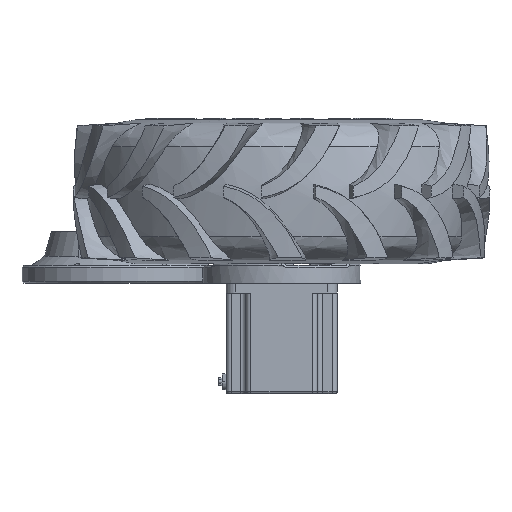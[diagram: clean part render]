
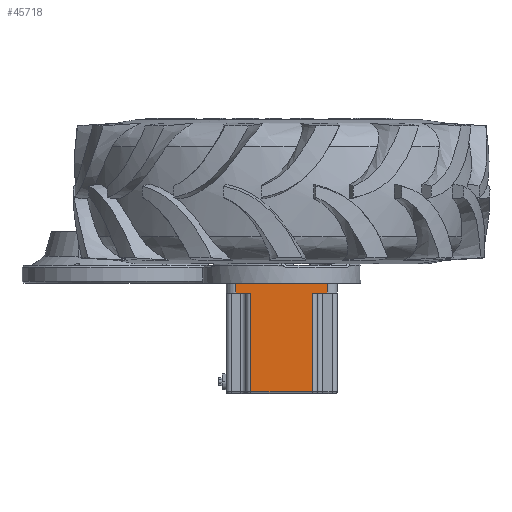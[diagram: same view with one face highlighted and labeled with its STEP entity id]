
A CAD part, left-side view. The second image highlights one B-rep face of the part: STEP entity #45718.
In plain terms, the highlighted planar face has unit normal (-1, 0, 0).
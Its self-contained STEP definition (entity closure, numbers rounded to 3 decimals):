
#4728=PLANE('',#49649);
#6776=FACE_OUTER_BOUND('',#9666,.T.);
#9666=EDGE_LOOP('',(#37604,#37605,#37606,#37607,#37608,#37609,#37610,#37611));
#12465=LINE('',#97996,#14789);
#12466=LINE('',#98001,#14790);
#12467=LINE('',#98006,#14791);
#12468=LINE('',#98008,#14792);
#12469=LINE('',#98010,#14793);
#12470=LINE('',#98011,#14794);
#12471=LINE('',#98012,#14795);
#12472=LINE('',#98013,#14796);
#14789=VECTOR('',#58211,1000.);
#14790=VECTOR('',#58216,1000.);
#14791=VECTOR('',#58221,1000.);
#14792=VECTOR('',#58222,1000.);
#14793=VECTOR('',#58223,1000.);
#14794=VECTOR('',#58224,1000.);
#14795=VECTOR('',#58225,1000.);
#14796=VECTOR('',#58226,1000.);
#20462=VERTEX_POINT('',#97990);
#20464=VERTEX_POINT('',#97994);
#20465=VERTEX_POINT('',#97998);
#20466=VERTEX_POINT('',#98000);
#20467=VERTEX_POINT('',#98004);
#20468=VERTEX_POINT('',#98005);
#20469=VERTEX_POINT('',#98007);
#20470=VERTEX_POINT('',#98009);
#26473=EDGE_CURVE('',#20464,#20462,#12465,.T.);
#26475=EDGE_CURVE('',#20466,#20465,#12466,.T.);
#26477=EDGE_CURVE('',#20467,#20468,#12467,.T.);
#26478=EDGE_CURVE('',#20468,#20469,#12468,.T.);
#26479=EDGE_CURVE('',#20469,#20470,#12469,.T.);
#26480=EDGE_CURVE('',#20462,#20470,#12470,.T.);
#26481=EDGE_CURVE('',#20466,#20464,#12471,.T.);
#26482=EDGE_CURVE('',#20467,#20465,#12472,.T.);
#37604=ORIENTED_EDGE('',*,*,#26477,.T.);
#37605=ORIENTED_EDGE('',*,*,#26478,.T.);
#37606=ORIENTED_EDGE('',*,*,#26479,.T.);
#37607=ORIENTED_EDGE('',*,*,#26480,.F.);
#37608=ORIENTED_EDGE('',*,*,#26473,.F.);
#37609=ORIENTED_EDGE('',*,*,#26481,.F.);
#37610=ORIENTED_EDGE('',*,*,#26475,.T.);
#37611=ORIENTED_EDGE('',*,*,#26482,.F.);
#45718=ADVANCED_FACE('',(#6776),#4728,.F.);
#49649=AXIS2_PLACEMENT_3D('',#98003,#58219,#58220);
#58211=DIRECTION('',(0.,-1.,0.));
#58216=DIRECTION('',(0.,-1.,0.));
#58219=DIRECTION('center_axis',(1.,0.,0.));
#58220=DIRECTION('ref_axis',(0.,0.,-1.));
#58221=DIRECTION('',(0.,-1.,0.));
#58222=DIRECTION('',(0.,0.,1.));
#58223=DIRECTION('',(0.,1.,0.));
#58224=DIRECTION('',(0.,0.,-1.));
#58225=DIRECTION('',(0.,0.,1.));
#58226=DIRECTION('',(0.,0.,-1.));
#97990=CARTESIAN_POINT('',(-28.2,51.,23.2));
#97994=CARTESIAN_POINT('',(-28.2,56.,23.2));
#97996=CARTESIAN_POINT('',(-28.2,56.,23.2));
#97998=CARTESIAN_POINT('',(-28.2,51.,-23.2));
#98000=CARTESIAN_POINT('',(-28.2,56.,-23.2));
#98001=CARTESIAN_POINT('',(-28.2,56.,-23.2));
#98003=CARTESIAN_POINT('Origin',(-28.2,56.,23.2));
#98004=CARTESIAN_POINT('',(-28.2,51.,-15.7));
#98005=CARTESIAN_POINT('',(-28.2,1.,-15.7));
#98006=CARTESIAN_POINT('',(-28.2,56.,-15.7));
#98007=CARTESIAN_POINT('',(-28.2,1.,15.7));
#98008=CARTESIAN_POINT('',(-28.2,1.,15.7));
#98009=CARTESIAN_POINT('',(-28.2,51.,15.7));
#98010=CARTESIAN_POINT('',(-28.2,56.,15.7));
#98011=CARTESIAN_POINT('',(-28.2,51.,28.2));
#98012=CARTESIAN_POINT('',(-28.2,56.,23.2));
#98013=CARTESIAN_POINT('',(-28.2,51.,-28.2));
